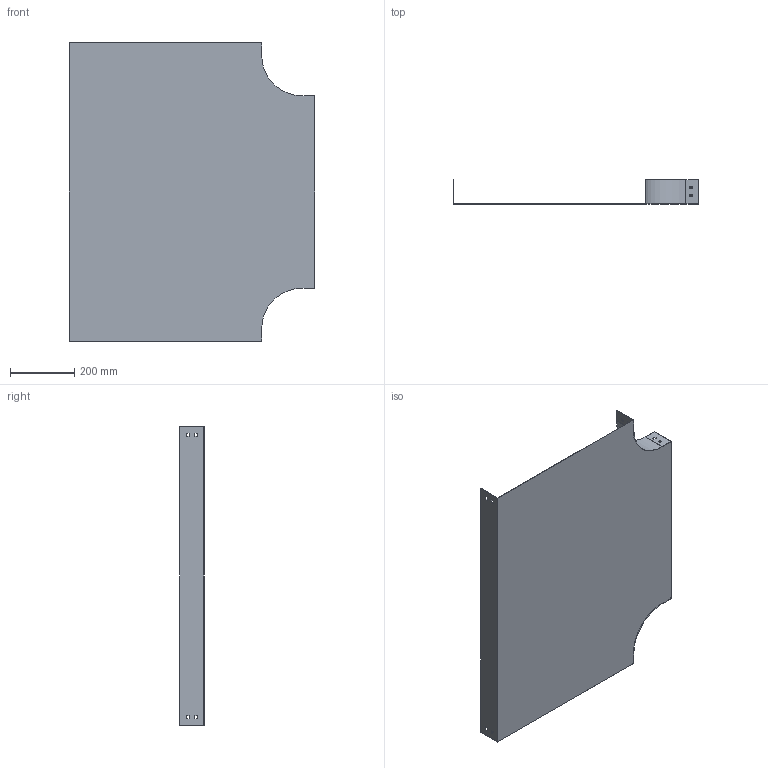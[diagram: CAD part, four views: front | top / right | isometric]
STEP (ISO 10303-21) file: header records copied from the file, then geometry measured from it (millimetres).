
FILE_DESCRIPTION (( 'STEP AP214' ), '1' );
FILE_NAME ('PT_607.step', '2025-07-16T09:24:29', ( '' ), ( '' ), 'SwSTEP 2.0', 'SolidWorks 2023', '' );
FILE_SCHEMA (( 'AUTOMOTIVE_DESIGN' ));
Length unit declared in the file: millimetre
Products named in the file (1): PT_607
Bounding box: 765 x 75 x 930 mm (x, y, z)
Volume: 1158026.8 mm3; surface area: 1550233.3 mm2
Topology: 1 solids, 1 shells, 70 faces, 204 edges, 136 vertices
Faces by surface type: plane 66, cylinder 4
Entity records: 2347 total; most frequent: CARTESIAN_POINT 411, ORIENTED_EDGE 408, DIRECTION 354, EDGE_CURVE 204, VECTOR 196, LINE 196, VERTEX_POINT 136, EDGE_LOOP 94
